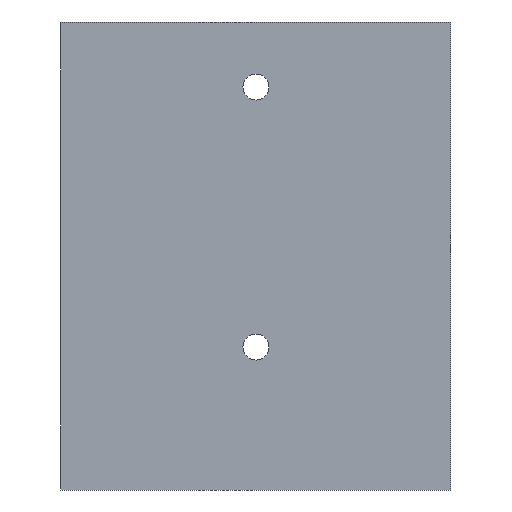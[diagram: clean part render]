
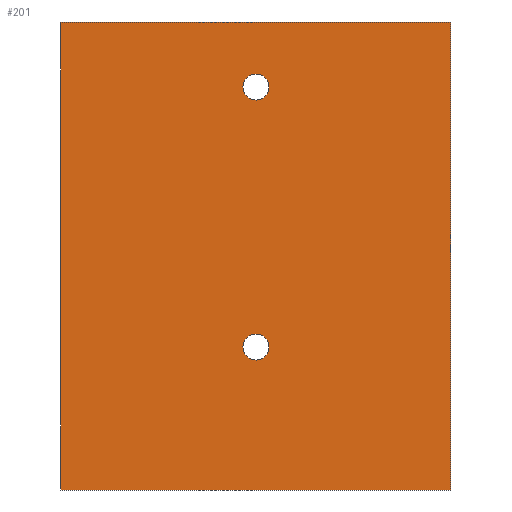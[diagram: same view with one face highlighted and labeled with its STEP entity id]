
A CAD part, front view. The second image highlights one B-rep face of the part: STEP entity #201.
In plain terms, the highlighted planar face has unit normal (0, -1, 0).
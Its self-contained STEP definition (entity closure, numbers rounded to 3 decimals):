
#201=ADVANCED_FACE('',(#412,#413,#414),#415,.T.);
#412=FACE_BOUND('',#628,.T.);
#413=FACE_BOUND('',#629,.T.);
#414=FACE_OUTER_BOUND('',#630,.T.);
#415=PLANE('',#631);
#628=EDGE_LOOP('',(#1175,#1176));
#629=EDGE_LOOP('',(#1177,#1178));
#630=EDGE_LOOP('',(#1179,#1180,#1181,#1182));
#631=AXIS2_PLACEMENT_3D('',#1183,#1184,#1185);
#1175=ORIENTED_EDGE('',*,*,#1304,.T.);
#1176=ORIENTED_EDGE('',*,*,#1309,.T.);
#1177=ORIENTED_EDGE('',*,*,#1299,.T.);
#1178=ORIENTED_EDGE('',*,*,#1312,.T.);
#1179=ORIENTED_EDGE('',*,*,#1314,.T.);
#1180=ORIENTED_EDGE('',*,*,#1515,.T.);
#1181=ORIENTED_EDGE('',*,*,#1516,.F.);
#1182=ORIENTED_EDGE('',*,*,#1382,.F.);
#1183=CARTESIAN_POINT('',(2500.0,0.,-72.0));
#1184=DIRECTION('',(0.,-1.0,0.0));
#1185=DIRECTION('',(0.,0.,1.0));
#1299=EDGE_CURVE('',#1549,#1546,#1550,.T.);
#1304=EDGE_CURVE('',#1558,#1555,#1559,.T.);
#1309=EDGE_CURVE('',#1555,#1558,#1565,.T.);
#1312=EDGE_CURVE('',#1546,#1549,#1568,.T.);
#1314=EDGE_CURVE('',#1570,#1571,#1572,.T.);
#1382=EDGE_CURVE('',#1570,#1688,#1689,.T.);
#1515=EDGE_CURVE('',#1571,#1874,#1875,.T.);
#1516=EDGE_CURVE('',#1688,#1874,#1876,.T.);
#1546=VERTEX_POINT('',#1914);
#1549=VERTEX_POINT('',#1918);
#1550=CIRCLE('',#1919,2.0);
#1555=VERTEX_POINT('',#1925);
#1558=VERTEX_POINT('',#1929);
#1559=CIRCLE('',#1930,2.0);
#1565=CIRCLE('',#1937,2.0);
#1568=CIRCLE('',#1940,2.0);
#1570=VERTEX_POINT('',#1942);
#1571=VERTEX_POINT('',#1943);
#1572=LINE('',#1944,#1945);
#1688=VERTEX_POINT('',#2110);
#1689=LINE('',#2111,#2112);
#1874=VERTEX_POINT('',#2356);
#1875=LINE('',#2357,#2358);
#1876=LINE('',#2359,#2360);
#1914=CARTESIAN_POINT('',(28.0,0.,-10.0));
#1918=CARTESIAN_POINT('',(32.0,0.,-10.0));
#1919=AXIS2_PLACEMENT_3D('',#2415,#2416,#2417);
#1925=CARTESIAN_POINT('',(28.0,0.,-50.0));
#1929=CARTESIAN_POINT('',(32.0,0.,-50.0));
#1930=AXIS2_PLACEMENT_3D('',#2423,#2424,#2425);
#1937=AXIS2_PLACEMENT_3D('',#2433,#2434,#2435);
#1940=AXIS2_PLACEMENT_3D('',#2439,#2440,#2441);
#1942=CARTESIAN_POINT('',(60.0,0.,-72.0));
#1943=CARTESIAN_POINT('',(60.0,0.,0.0));
#1944=CARTESIAN_POINT('',(60.0,0.,-54.0));
#1945=VECTOR('',#2442,1.0);
#2110=CARTESIAN_POINT('',(0.0,0.,-72.0));
#2111=CARTESIAN_POINT('',(2500.0,0.,-72.0));
#2112=VECTOR('',#2519,1.0);
#2356=CARTESIAN_POINT('',(0.0,0.,0.0));
#2357=CARTESIAN_POINT('',(2500.0,0.,0.0));
#2358=VECTOR('',#2672,1.0);
#2359=CARTESIAN_POINT('',(0.0,0.,-72.0));
#2360=VECTOR('',#2673,1.0);
#2415=CARTESIAN_POINT('',(30.0,0.,-10.0));
#2416=DIRECTION('',(0.0,1.0,0.));
#2417=DIRECTION('',(-1.0,0.,0.));
#2423=CARTESIAN_POINT('',(30.0,0.,-50.0));
#2424=DIRECTION('',(0.0,1.0,0.));
#2425=DIRECTION('',(-1.0,0.,0.));
#2433=CARTESIAN_POINT('',(30.0,0.,-50.0));
#2434=DIRECTION('',(0.0,1.0,0.));
#2435=DIRECTION('',(-1.0,0.,0.));
#2439=CARTESIAN_POINT('',(30.0,0.,-10.0));
#2440=DIRECTION('',(0.0,1.0,0.));
#2441=DIRECTION('',(-1.0,0.,0.));
#2442=DIRECTION('',(0.0,0.,1.0));
#2519=DIRECTION('',(-1.0,0.,0.));
#2672=DIRECTION('',(-1.0,0.,0.));
#2673=DIRECTION('',(0.,0.0,1.0));
